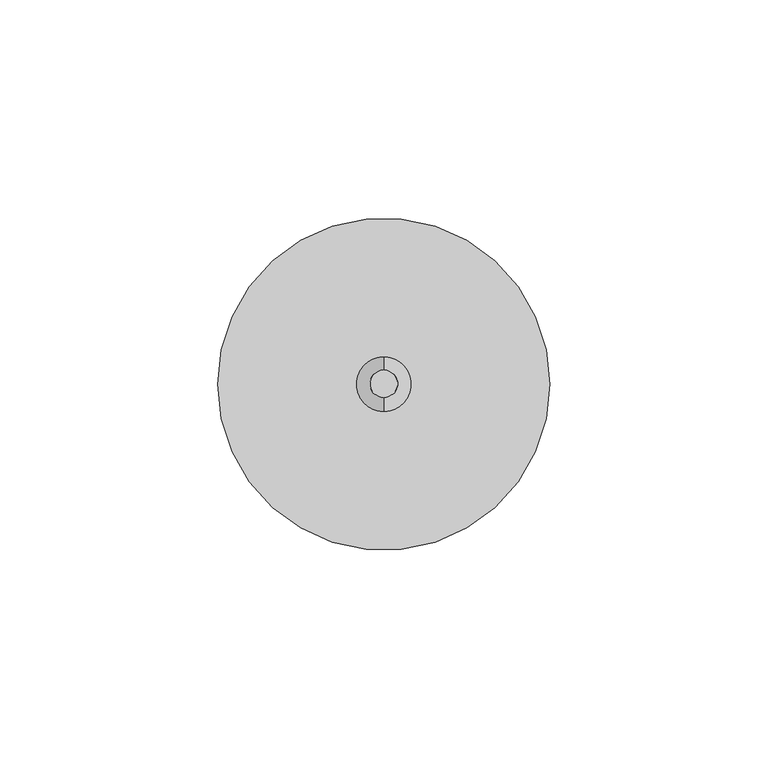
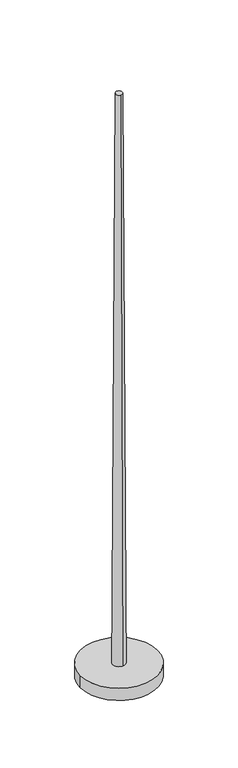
"""IFC4 building model written with IfcOpenShell, lengths in millimetres: proxy geometry."""

import ifcopenshell
import ifcopenshell.guid

model = None  # the IFC model being written
_history = None  # IfcOwnerHistory: only IFC2X3 demands one
_inside = {}  # id of a spatial element -> (the spatial element, [elements in it])
_under = {}  # id of a project, library or spatial element -> (it, [spatial elements below it])
_declared = {}  # id of a project -> (the project, [libraries it declares])
_typed = {}  # id of a type object -> (the type object, [elements of that type])
_made_of = {}  # id of a material, layer set ... -> (it, [elements and type objects made of it])


def new_model(schema):
    """Start an empty IFC model of exactly this schema.

    Asked for "IFC4X3", IfcOpenShell would pick the latest addendum, in which some entities
    have other attributes; the version numbers below select the first issue.
    IFC2X3 requires an IfcOwnerHistory on every rooted entity: one is made here for all.
    """
    global model, _history
    if schema == "IFC4X3":
        model = ifcopenshell.file(schema_version=(4, 3, 0, 0))
    else:
        model = ifcopenshell.file(schema=schema)
    _inside.clear()
    _under.clear()
    _declared.clear()
    _typed.clear()
    _made_of.clear()
    _history = None
    if model.schema == "IFC2X3":
        org = make("IfcOrganization", Name="unknown")
        user = make(
            "IfcPersonAndOrganization",
            ThePerson=make("IfcPerson", FamilyName="unknown"),
            TheOrganization=org,
        )
        app = make(
            "IfcApplication",
            ApplicationDeveloper=org,
            Version="unknown",
            ApplicationFullName="unknown",
            ApplicationIdentifier="unknown",
        )
        _history = make(
            "IfcOwnerHistory",
            OwningUser=user,
            OwningApplication=app,
            ChangeAction="ADDED",
            CreationDate=0,
        )
    return model


def make(cls, **values):
    """One entity of the class cls with the attributes given. An attribute that is None is left unset."""
    return model.create_entity(
        cls, **{name: value for name, value in values.items() if value is not None}
    )


def rooted(cls, **values):
    """An entity with a GlobalId (a new one), such as an element, a storey or a relation."""
    return make(cls, GlobalId=ifcopenshell.guid.new(), OwnerHistory=_history, **values)


def si_unit(unit_type, name, prefix=None):
    """IfcSIUnit, for example si_unit("LENGTHUNIT", "METRE", prefix="MILLI")."""
    return make("IfcSIUnit", UnitType=unit_type, Prefix=prefix, Name=name)


def assignment(units):
    """IfcUnitAssignment: the units of a project."""
    return None if units is None else make("IfcUnitAssignment", Units=units)


def point(xyz):
    """IfcCartesianPoint."""
    return None if xyz is None else make("IfcCartesianPoint", Coordinates=xyz)


def direction(xyz):
    """IfcDirection."""
    return None if xyz is None else make("IfcDirection", DirectionRatios=xyz)


def frame(location, z_axis=None, x_axis=None):
    """IfcAxis2Placement3D, a coordinate frame: its origin and axes. An axis left out is left unset."""
    return make(
        "IfcAxis2Placement3D",
        Location=point(location),
        Axis=direction(z_axis),
        RefDirection=direction(x_axis),
    )


def frame_2d(location, x_axis=None):
    """IfcAxis2Placement2D, a coordinate frame in the plane: its origin and x axis."""
    return make(
        "IfcAxis2Placement2D", Location=point(location), RefDirection=direction(x_axis)
    )


def origin():
    """The frame at (0, 0, 0) with its axes left unset."""
    return frame((0.0, 0.0, 0.0))


def origin_with_axes():
    """The frame at (0, 0, 0) with the z axis (0, 0, 1) and the x axis (1, 0, 0) written out."""
    return frame((0.0, 0.0, 0.0), z_axis=(0.0, 0.0, 1.0), x_axis=(1.0, 0.0, 0.0))


def origin_2d():
    """The frame at (0, 0) in the plane with its x axis left unset."""
    return frame_2d((0.0, 0.0))


def place(relative_to, where):
    """IfcLocalPlacement: puts the frame where relative to a parent placement (None: the world)."""
    return make(
        "IfcLocalPlacement", PlacementRelTo=relative_to, RelativePlacement=where
    )


def context(
    kind, dimensions, precision=None, world=None, true_north=None, identifier=None
):
    """IfcGeometricRepresentationContext, for example the 3D "Model" context."""
    return make(
        "IfcGeometricRepresentationContext",
        ContextIdentifier=identifier,
        ContextType=kind,
        CoordinateSpaceDimension=dimensions,
        Precision=precision,
        WorldCoordinateSystem=world,
        TrueNorth=true_north,
    )


def project(units=None, contexts=None):
    """IfcProject with its units and contexts."""
    return rooted(
        "IfcProject",
        Name="project",
        RepresentationContexts=contexts,
        UnitsInContext=assignment(units),
    )


def spatial(cls, under=None, at=None, **own):
    """A site, building, storey or space (cls), placed at a placement, below another one or the project."""
    s = rooted(cls, ObjectPlacement=at, **own)
    if under is not None:
        _under.setdefault(under.id(), (under, []))[1].append(s)
    return s


def polyline(points):
    """IfcPolyline through the points."""
    return make("IfcPolyline", Points=[point(p) for p in points])


def circle_curve(where, radius):
    """IfcCircle in the frame where."""
    return make("IfcCircle", Position=where, Radius=radius)


def trimmed(basis, trim1, trim2, sense, master):
    """IfcTrimmedCurve: the piece of a basis curve between two trims."""
    return make(
        "IfcTrimmedCurve",
        BasisCurve=basis,
        Trim1=trim1,
        Trim2=trim2,
        SenseAgreement=sense,
        MasterRepresentation=master,
    )


def segment(curve, same_sense, transition):
    """IfcCompositeCurveSegment."""
    return make(
        "IfcCompositeCurveSegment",
        Transition=transition,
        SameSense=same_sense,
        ParentCurve=curve,
    )


def composite_curve(segments, self_intersect=None):
    """IfcCompositeCurve: segments joined end to end."""
    return make("IfcCompositeCurve", Segments=segments, SelfIntersect=self_intersect)


def outline(outer, holes=None, kind="AREA"):
    """IfcArbitraryClosedProfileDef: a profile drawn as a closed curve; with holes, ...WithVoids."""
    if holes is None:
        return make("IfcArbitraryClosedProfileDef", ProfileType=kind, OuterCurve=outer)
    return make(
        "IfcArbitraryProfileDefWithVoids",
        ProfileType=kind,
        OuterCurve=outer,
        InnerCurves=holes,
    )


def extrude(swept, where, along, depth):
    """IfcExtrudedAreaSolid: the profile swept, set in the frame where, extruded along a direction by depth."""
    return make(
        "IfcExtrudedAreaSolid",
        SweptArea=swept,
        Position=where,
        ExtrudedDirection=direction(along),
        Depth=depth,
    )


def shape(context_of_items, identifier, shape_type, items):
    """IfcShapeRepresentation: the items that make up one representation, for example the "Body"."""
    return make(
        "IfcShapeRepresentation",
        ContextOfItems=context_of_items,
        RepresentationIdentifier=identifier,
        RepresentationType=shape_type,
        Items=items,
    )


def source(mapping_origin, context_of_items, identifier, shape_type, items):
    """IfcRepresentationMap: a shape defined once, which mapped items show again and again."""
    return make(
        "IfcRepresentationMap",
        MappingOrigin=mapping_origin,
        MappedRepresentation=shape(context_of_items, identifier, shape_type, items),
    )


def transform(
    local_origin,
    x_axis=None,
    y_axis=None,
    z_axis=None,
    scale=None,
    scale2=None,
    scale3=None,
    uniform=True,
):
    """IfcCartesianTransformationOperator3D, or its non-uniform kind. x_axis, y_axis, z_axis: its Axis1, 2, 3."""
    if uniform:
        return make(
            "IfcCartesianTransformationOperator3D",
            Axis1=direction(x_axis),
            Axis2=direction(y_axis),
            LocalOrigin=point(local_origin),
            Scale=scale,
            Axis3=direction(z_axis),
        )
    return make(
        "IfcCartesianTransformationOperator3DnonUniform",
        Axis1=direction(x_axis),
        Axis2=direction(y_axis),
        LocalOrigin=point(local_origin),
        Scale=scale,
        Axis3=direction(z_axis),
        Scale2=scale2,
        Scale3=scale3,
    )


def mapped(mapping_source, mapping_target):
    """IfcMappedItem: shows the shape of a source again, moved by a transform."""
    return make(
        "IfcMappedItem", MappingSource=mapping_source, MappingTarget=mapping_target
    )


def made_of(thing, what):
    """Note that an element or type object is made of a material, layer set ...; save() writes the relation."""
    if what is not None:
        _made_of.setdefault(what.id(), (what, []))[1].append(thing)
    return thing


def element(
    cls,
    number,
    at=None,
    inside=None,
    cuts=None,
    type_object=None,
    material=None,
    context=None,
    identifier="Body",
    shape_type=None,
    held_by="IfcProductDefinitionShape",
    body=None,
    shapes=None,
    **own,
):
    """One element of the class cls, such as IfcWall. Its Tag is "e" and its number.

    at: its placement. inside: the storey or other place that contains it. cuts: it is an
    opening in that element (IfcRelVoidsElement). A single representation is given by context,
    identifier, shape_type and body (its items); several are given by shapes. held_by: the class
    of the entity that holds the representations. save() writes the other relations.
    """
    e = rooted(cls, Tag="e%d" % number, ObjectPlacement=at, **own)
    if body is not None:
        shapes = [shape(context, identifier, shape_type, body)]
    if shapes is not None:
        e.Representation = make(held_by, Representations=shapes)
    if inside is not None:
        _inside.setdefault(inside.id(), (inside, []))[1].append(e)
    if cuts is not None:
        rooted(
            "IfcRelVoidsElement", RelatingBuildingElement=cuts, RelatedOpeningElement=e
        )
    if type_object is not None:
        _typed.setdefault(type_object.id(), (type_object, []))[1].append(e)
    return made_of(e, material)


def aggregate(whole, parts):
    """IfcRelAggregates: a whole, such as a stair, and the parts it consists of."""
    return rooted("IfcRelAggregates", RelatingObject=whole, RelatedObjects=parts)


def save(model, path):
    """Write the relations noted so far, then the file.

    IfcRelAggregates (storeys below a building ...), IfcRelContainedInSpatialStructure (elements
    in a storey), IfcRelDefinesByType, IfcRelAssociatesMaterial and IfcRelDeclares: one each for
    every whole, place, type object, material and project.
    """
    for whole, parts in _under.values():
        aggregate(whole, parts)
    for where, things in _inside.values():
        rooted(
            "IfcRelContainedInSpatialStructure",
            RelatedElements=things,
            RelatingStructure=where,
        )
    for kind, things in _typed.values():
        rooted("IfcRelDefinesByType", RelatedObjects=things, RelatingType=kind)
    for what, things in _made_of.values():
        rooted("IfcRelAssociatesMaterial", RelatedObjects=things, RelatingMaterial=what)
    for by, libraries in _declared.values():
        rooted("IfcRelDeclares", RelatingContext=by, RelatedDefinitions=libraries)
    model.write(path)


def plane_surface(at):
    """IfcPlane: the flat surface through the origin of the frame at, square to its z axis."""
    return make("IfcPlane", Position=at)


def revolved_surface(curve, axis_point, axis_direction):
    """IfcSurfaceOfRevolution: the curve turned about the line through axis_point along axis_direction."""
    return make(
        "IfcSurfaceOfRevolution",
        SweptCurve=make("IfcArbitraryOpenProfileDef", ProfileType="CURVE", Curve=curve),
        AxisPosition=make("IfcAxis1Placement", Location=point(axis_point), Axis=direction(axis_direction)),
    )


def advanced_brep(points, edges, surfaces, faces):
    """IfcAdvancedBrep: a solid bounded by faces that lie on surfaces and meet in shared edges.

    An edge is (start, end): straight between two places in points (the first is 0);
    or (start, end, curve); or (start, end, curve, False) where it runs against its curve.
    A face is (place in surfaces, loops), or (place, loops, False) where it looks against
    its surface's normal. A loop lists edges by number (the first is 1), with a minus sign
    where the edge is run from its end to its start. The first loop is the outer one.
    """
    corners = [point(p) for p in points]
    vertices = [make("IfcVertexPoint", VertexGeometry=c) for c in corners]
    made = []
    for start, end, *more in edges:
        made.append(
            make(
                "IfcEdgeCurve",
                EdgeStart=vertices[start],
                EdgeEnd=vertices[end],
                EdgeGeometry=more[0] if more else make("IfcPolyline", Points=[corners[start], corners[end]]),
                SameSense=more[1] if len(more) > 1 else True,
            )
        )
    hull = []
    for where, loops, *sense in faces:
        bounds = []
        for j, loop in enumerate(loops):
            ring = [make("IfcOrientedEdge", EdgeElement=made[abs(k) - 1], Orientation=k > 0) for k in loop]
            bounds.append(
                make(
                    "IfcFaceOuterBound" if j == 0 else "IfcFaceBound",
                    Bound=make("IfcEdgeLoop", EdgeList=ring),
                    Orientation=True,
                )
            )
        hull.append(make("IfcAdvancedFace", Bounds=bounds, FaceSurface=surfaces[where], SameSense=sense[0] if sense else True))
    return make("IfcAdvancedBrep", Outer=make("IfcClosedShell", CfsFaces=hull))


def electrical_fixtures_6899b8a9(model_context):
    return source(origin(), model_context, "Body", "SolidModel", [
        extrude(outline(composite_curve([segment(trimmed(circle_curve(origin_2d(), 38.1), [point((38.1, 0.0))], [point((-38.1, 0.0))], False, "CARTESIAN"), True, "CONTINUOUS"), segment(trimmed(circle_curve(origin_2d(), 38.1), [point((-38.1, 0.0))], [point((38.1, 0.0))], False, "CARTESIAN"), True, "CONTINUOUS")], self_intersect=False)), origin_with_axes(), (0.0, 0.0, 1.0), 12.7),
        advanced_brep(
        [(0.0, 3.175, 609.6), (0.0, -3.175, 609.6), (0.0, 6.35, 0.0), (0.0, -6.35, 0.0)],
        [
            (0, 1, circle_curve(frame((0.0, 0.0, 609.6), z_axis=(0.0, 0.0, 1.0), x_axis=(0.0, 1.0, 0.0)), 3.175)),
            (1, 0, circle_curve(frame((0.0, 0.0, 609.6), z_axis=(0.0, 0.0, 1.0), x_axis=(0.0, -1.0, 0.0)), 3.175)),
            (2, 3, circle_curve(frame((0.0, 0.0, 0.0), z_axis=(0.0, 0.0, -1.0), x_axis=(0.0, -1.0, 0.0)), 6.35)),
            (3, 2, circle_curve(frame((0.0, 0.0, 0.0), z_axis=(0.0, 0.0, -1.0), x_axis=(0.0, 1.0, 0.0)), 6.35)),
            (3, 1),
            (0, 2),
        ],
        [
            plane_surface(frame((0.0, 0.0, 609.6), z_axis=(0.0, 0.0, 1.0), x_axis=(-1.0, 0.0, 0.0))),
            plane_surface(frame((0.0, 0.0, 0.0), z_axis=(0.0, 0.0, -1.0), x_axis=(-1.0, 0.0, 0.0))),
            revolved_surface(polyline([(0.0, 3.175, 609.6), (0.0, 6.35, 0.0)]), (0.0, 0.0, 1219.2), (0.0, 0.0, -1.0)),
            revolved_surface(polyline([(0.0, -3.175, 609.6), (0.0, -6.35, 0.0)]), (0.0, 0.0, 1219.2), (0.0, 0.0, -1.0)),
        ],
        [
            (0, [[1, 2]]),
            (1, [[3, 4]]),
            (2, [[-4, 5, -1, 6]]),
            (3, [[-3, -6, -2, -5]]),
        ],
    ),
    ])


if __name__ == "__main__":
    model = new_model("IFC4")
    model_context = context("Model", 3, world=origin())
    ifc_project = project(units=[si_unit("LENGTHUNIT", "METRE", prefix="MILLI")], contexts=[model_context])
    site = spatial("IfcSite", under=ifc_project)
    building = spatial("IfcBuilding", under=site)
    placement = place(None, origin())
    electrical_fixtures_shape = electrical_fixtures_6899b8a9(model_context)
    element("IfcBuildingElementProxy", 1, Name="OMAHA - AirTerminal_Grounding : 24\" Lightning Air Terminal", ObjectType="OMAHA - AirTerminal_Grounding : 24\" Lightning Air Terminal", at=placement, inside=building, context=model_context, shape_type="MappedRepresentation", body=[
        mapped(electrical_fixtures_shape, transform((0.0, 0.0, 0.0), x_axis=(1.0, 0.0, 0.0), y_axis=(0.0, 1.0, 0.0), z_axis=(0.0, 0.0, 1.0))),
    ])
    save(model, "model.ifc")
